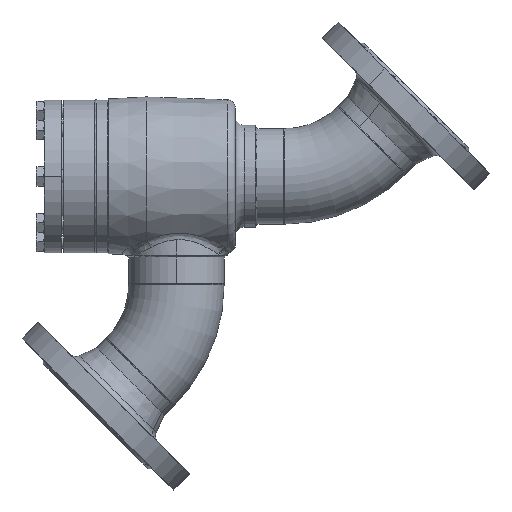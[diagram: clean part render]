
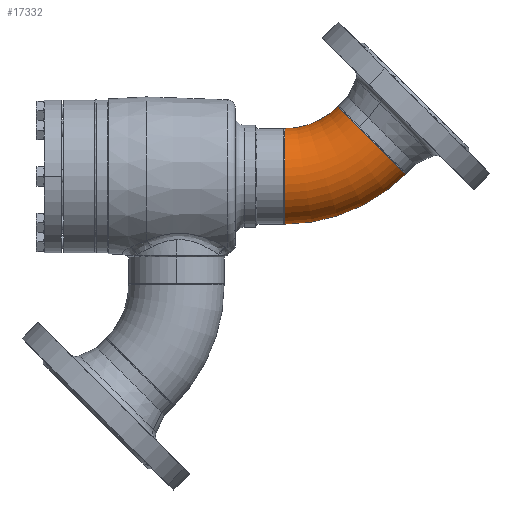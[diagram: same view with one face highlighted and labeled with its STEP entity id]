
A CAD part, left-side view. The second image highlights one B-rep face of the part: STEP entity #17332.
In plain terms, the highlighted toroidal (fillet/blend) face has major radius 114 mm and minor radius 44.45 mm.
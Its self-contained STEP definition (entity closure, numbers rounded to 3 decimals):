
#16587 = ORIENTED_EDGE ( 'NONE', *, *, #9703, .F. ) ;
#17094 = EDGE_LOOP ( 'NONE', ( #16587, #6855, #6028, #5530 ) ) ;
#17332 = ADVANCED_FACE ( 'NONE', ( #11563 ), #11564, .T. ) ;
#18392 = CIRCLE ( 'NONE', #18393, 44.45 ) ;
#18393 = AXIS2_PLACEMENT_3D ( 'NONE', #18394, #18395, #18396 ) ;
#18394 = CARTESIAN_POINT ( 'NONE',  ( 80.61, -33.39, 0. ) ) ;
#18395 = DIRECTION ( 'NONE',  ( 0.707, -0.707, 0. ) ) ;
#18396 = DIRECTION ( 'NONE',  ( 0., 0., -1. ) ) ;
#2656 = CIRCLE ( 'NONE', #2660, 69.55 ) ;
#2660 = AXIS2_PLACEMENT_3D ( 'NONE', #2661, #2662, #2663 ) ;
#2661 = CARTESIAN_POINT ( 'NONE',  ( 0., -114., 0. ) ) ;
#2662 = DIRECTION ( 'NONE',  ( 0., 0., 1. ) ) ;
#2663 = DIRECTION ( 'NONE',  ( 1., 0., 0. ) ) ;
#5176 = EDGE_CURVE ( 'NONE', #8403, #9488, #14692, .T. ) ;
#5530 = ORIENTED_EDGE ( 'NONE', *, *, #5176, .T. ) ;
#5894 = CARTESIAN_POINT ( 'NONE',  ( 49.179, -64.821, 0. ) ) ;
#6028 = ORIENTED_EDGE ( 'NONE', *, *, #7547, .T. ) ;
#6107 = CARTESIAN_POINT ( 'NONE',  ( 112.041, -1.959, 0. ) ) ;
#6535 = EDGE_CURVE ( 'NONE', #10561, #10773, #18392, .T. ) ;
#6855 = ORIENTED_EDGE ( 'NONE', *, *, #6535, .F. ) ;
#7547 = EDGE_CURVE ( 'NONE', #10561, #8403, #2656, .T. ) ;
#8403 = VERTEX_POINT ( 'NONE', #12041 ) ;
#9488 = VERTEX_POINT ( 'NONE', #14271 ) ;
#9703 = EDGE_CURVE ( 'NONE', #10773, #9488, #14647, .T. ) ;
#10561 = VERTEX_POINT ( 'NONE', #5894 ) ;
#10773 = VERTEX_POINT ( 'NONE', #6107 ) ;
#11563 = FACE_OUTER_BOUND ( 'NONE', #17094, .T. ) ;
#11564 = TOROIDAL_SURFACE ( 'NONE', #11565, 114., 44.45 ) ;
#11565 = AXIS2_PLACEMENT_3D ( 'NONE', #11566, #11567, #11568 ) ;
#11566 = CARTESIAN_POINT ( 'NONE',  ( 0., -114., 0. ) ) ;
#11567 = DIRECTION ( 'NONE',  ( 0., 0., 1. ) ) ;
#11568 = DIRECTION ( 'NONE',  ( 1., 0., 0. ) ) ;
#12041 = CARTESIAN_POINT ( 'NONE',  ( 0., -44.45, 0. ) ) ;
#14271 = CARTESIAN_POINT ( 'NONE',  ( 0., 44.45, 0. ) ) ;
#14647 = CIRCLE ( 'NONE', #14648, 158.45 ) ;
#14648 = AXIS2_PLACEMENT_3D ( 'NONE', #14649, #14650, #14651 ) ;
#14649 = CARTESIAN_POINT ( 'NONE',  ( 0., -114., 0. ) ) ;
#14650 = DIRECTION ( 'NONE',  ( 0., 0., 1. ) ) ;
#14651 = DIRECTION ( 'NONE',  ( 1., 0., 0. ) ) ;
#14692 = CIRCLE ( 'NONE', #14693, 44.45 ) ;
#14693 = AXIS2_PLACEMENT_3D ( 'NONE', #14694, #14695, #14696 ) ;
#14694 = CARTESIAN_POINT ( 'NONE',  ( 0., 0., 0. ) ) ;
#14695 = DIRECTION ( 'NONE',  ( 1., 0., 0. ) ) ;
#14696 = DIRECTION ( 'NONE',  ( 0., 0., -1. ) ) ;
